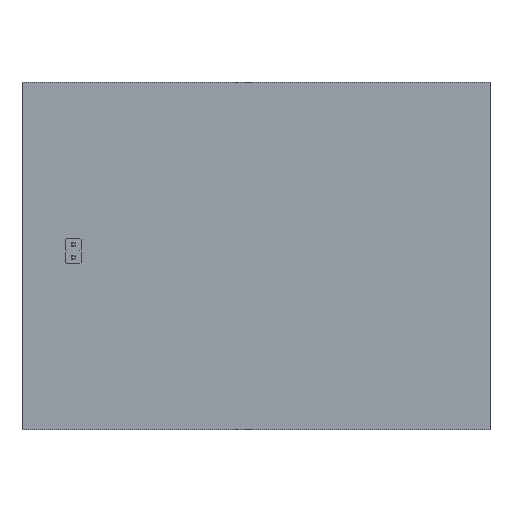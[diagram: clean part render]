
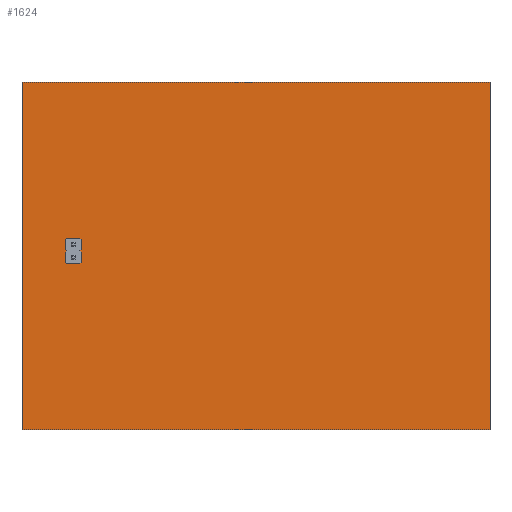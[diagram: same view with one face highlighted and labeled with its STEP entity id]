
A CAD part, top view. The second image highlights one B-rep face of the part: STEP entity #1624.
In plain terms, the highlighted planar face has unit normal (0, 0, 1).
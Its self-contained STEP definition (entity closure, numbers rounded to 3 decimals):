
#1490 = VERTEX_POINT('',#1491);
#1491 = CARTESIAN_POINT('',(134.2,-69.8,1.51));
#1497 = EDGE_CURVE('',#1490,#1498,#1500,.T.);
#1498 = VERTEX_POINT('',#1499);
#1499 = CARTESIAN_POINT('',(97.6,-69.8,1.51));
#1500 = LINE('',#1501,#1502);
#1501 = CARTESIAN_POINT('',(134.2,-69.8,1.51));
#1502 = VECTOR('',#1503,1.);
#1503 = DIRECTION('',(-1.,0.,0.));
#1530 = VERTEX_POINT('',#1531);
#1531 = CARTESIAN_POINT('',(134.2,-42.6,1.51));
#1537 = EDGE_CURVE('',#1530,#1490,#1538,.T.);
#1538 = LINE('',#1539,#1540);
#1539 = CARTESIAN_POINT('',(134.2,-42.6,1.51));
#1540 = VECTOR('',#1541,1.);
#1541 = DIRECTION('',(0.,-1.,0.));
#1559 = EDGE_CURVE('',#1498,#1560,#1562,.T.);
#1560 = VERTEX_POINT('',#1561);
#1561 = CARTESIAN_POINT('',(97.6,-42.6,1.51));
#1562 = LINE('',#1563,#1564);
#1563 = CARTESIAN_POINT('',(97.6,-69.8,1.51));
#1564 = VECTOR('',#1565,1.);
#1565 = DIRECTION('',(0.,1.,0.));
#1624 = ADVANCED_FACE('',(#1625,#1636,#1647),#1658,.T.);
#1625 = FACE_BOUND('',#1626,.T.);
#1626 = EDGE_LOOP('',(#1627,#1628,#1629,#1635));
#1627 = ORIENTED_EDGE('',*,*,#1497,.F.);
#1628 = ORIENTED_EDGE('',*,*,#1537,.F.);
#1629 = ORIENTED_EDGE('',*,*,#1630,.F.);
#1630 = EDGE_CURVE('',#1560,#1530,#1631,.T.);
#1631 = LINE('',#1632,#1633);
#1632 = CARTESIAN_POINT('',(97.6,-42.6,1.51));
#1633 = VECTOR('',#1634,1.);
#1634 = DIRECTION('',(1.,0.,0.));
#1635 = ORIENTED_EDGE('',*,*,#1559,.F.);
#1636 = FACE_BOUND('',#1637,.T.);
#1637 = EDGE_LOOP('',(#1638));
#1638 = ORIENTED_EDGE('',*,*,#1639,.T.);
#1639 = EDGE_CURVE('',#1640,#1640,#1642,.T.);
#1640 = VERTEX_POINT('',#1641);
#1641 = CARTESIAN_POINT('',(101.6,-56.55,1.51));
#1642 = CIRCLE('',#1643,0.25);
#1643 = AXIS2_PLACEMENT_3D('',#1644,#1645,#1646);
#1644 = CARTESIAN_POINT('',(101.6,-56.3,1.51));
#1645 = DIRECTION('',(-0.,0.,-1.));
#1646 = DIRECTION('',(-0.,-1.,0.));
#1647 = FACE_BOUND('',#1648,.T.);
#1648 = EDGE_LOOP('',(#1649));
#1649 = ORIENTED_EDGE('',*,*,#1650,.T.);
#1650 = EDGE_CURVE('',#1651,#1651,#1653,.T.);
#1651 = VERTEX_POINT('',#1652);
#1652 = CARTESIAN_POINT('',(101.6,-55.55,1.51));
#1653 = CIRCLE('',#1654,0.25);
#1654 = AXIS2_PLACEMENT_3D('',#1655,#1656,#1657);
#1655 = CARTESIAN_POINT('',(101.6,-55.3,1.51));
#1656 = DIRECTION('',(-0.,0.,-1.));
#1657 = DIRECTION('',(-0.,-1.,0.));
#1658 = PLANE('',#1659);
#1659 = AXIS2_PLACEMENT_3D('',#1660,#1661,#1662);
#1660 = CARTESIAN_POINT('',(0.,0.,1.51));
#1661 = DIRECTION('',(0.,0.,1.));
#1662 = DIRECTION('',(1.,0.,-0.));
